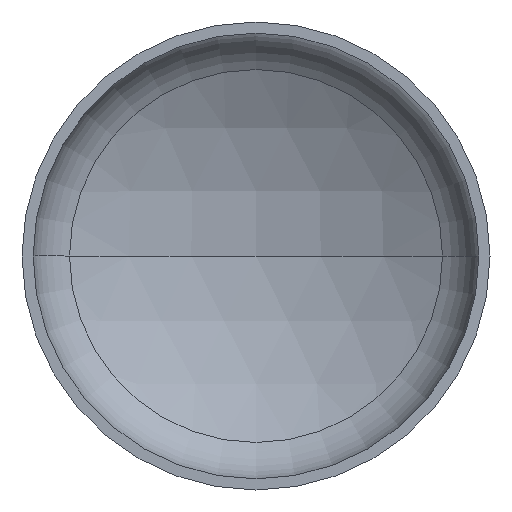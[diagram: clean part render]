
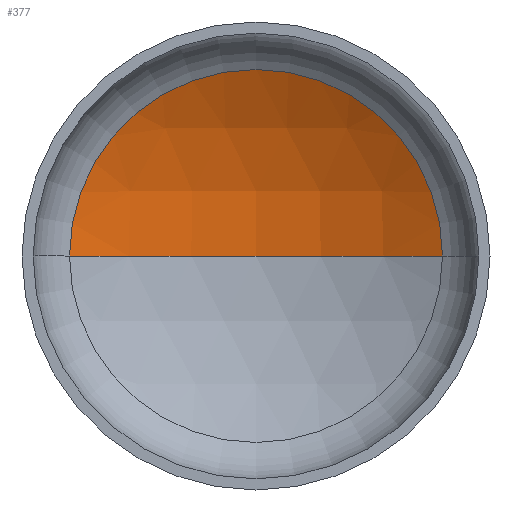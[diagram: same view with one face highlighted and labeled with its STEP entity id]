
A CAD part, front view. The second image highlights one B-rep face of the part: STEP entity #377.
In plain terms, the highlighted spherical face has radius 135 mm.
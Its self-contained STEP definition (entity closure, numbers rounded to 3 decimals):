
#7 = EDGE_CURVE ( 'NONE', #97, #30, #131, .T. ) ;
#9 = FACE_OUTER_BOUND ( 'NONE', #96, .T. ) ;
#30 = VERTEX_POINT ( 'NONE', #237 ) ;
#36 = DIRECTION ( 'NONE',  ( -1., 0., 0. ) ) ;
#37 = DIRECTION ( 'NONE',  ( 0., 0., -1. ) ) ;
#38 = CARTESIAN_POINT ( 'NONE',  ( 0., -74.598, 0. ) ) ;
#46 = AXIS2_PLACEMENT_3D ( 'NONE', #405, #183, #281 ) ;
#95 = ORIENTED_EDGE ( 'NONE', *, *, #153, .T. ) ;
#96 = EDGE_LOOP ( 'NONE', ( #145, #157, #95 ) ) ;
#97 = VERTEX_POINT ( 'NONE', #390 ) ;
#106 = CIRCLE ( 'NONE', #216, 135. ) ;
#115 = AXIS2_PLACEMENT_3D ( 'NONE', #213, #209, #210 ) ;
#131 = CIRCLE ( 'NONE', #228, 135. ) ;
#145 = ORIENTED_EDGE ( 'NONE', *, *, #7, .F. ) ;
#153 = EDGE_CURVE ( 'NONE', #195, #30, #283, .T. ) ;
#157 = ORIENTED_EDGE ( 'NONE', *, *, #199, .T. ) ;
#183 = DIRECTION ( 'NONE',  ( 0., 0., -1. ) ) ;
#195 = VERTEX_POINT ( 'NONE', #269 ) ;
#199 = EDGE_CURVE ( 'NONE', #97, #195, #106, .T. ) ;
#209 = DIRECTION ( 'NONE',  ( 0., -1., 0. ) ) ;
#210 = DIRECTION ( 'NONE',  ( 1., 0., 0. ) ) ;
#213 = CARTESIAN_POINT ( 'NONE',  ( 0., 42.565, 0. ) ) ;
#216 = AXIS2_PLACEMENT_3D ( 'NONE', #38, #37, #36 ) ;
#228 = AXIS2_PLACEMENT_3D ( 'NONE', #293, #273, #266 ) ;
#237 = CARTESIAN_POINT ( 'NONE',  ( -67.067, 42.565, 0. ) ) ;
#266 = DIRECTION ( 'NONE',  ( 1., 0., 0. ) ) ;
#269 = CARTESIAN_POINT ( 'NONE',  ( 67.067, 42.565, 0. ) ) ;
#273 = DIRECTION ( 'NONE',  ( 0., 0., 1. ) ) ;
#281 = DIRECTION ( 'NONE',  ( -1., 0., 0. ) ) ;
#283 = CIRCLE ( 'NONE', #115, 67.067 ) ;
#293 = CARTESIAN_POINT ( 'NONE',  ( 0., -74.598, 0. ) ) ;
#377 = ADVANCED_FACE ( 'NONE', ( #9 ), #386, .F. ) ;
#386 = SPHERICAL_SURFACE ( 'NONE', #46, 135. ) ;
#390 = CARTESIAN_POINT ( 'NONE',  ( 0., 60.402, 0. ) ) ;
#405 = CARTESIAN_POINT ( 'NONE',  ( 0., -74.598, 0. ) ) ;
